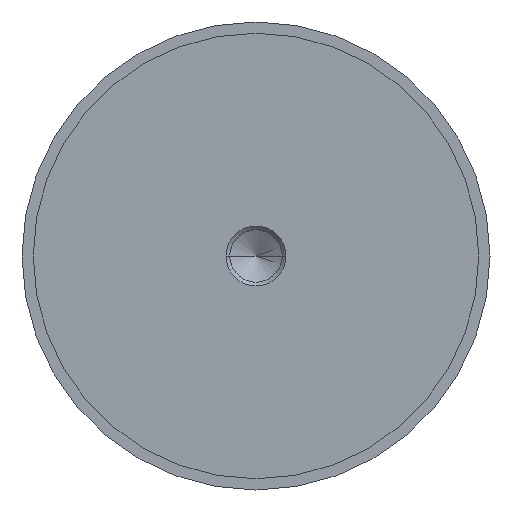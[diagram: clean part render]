
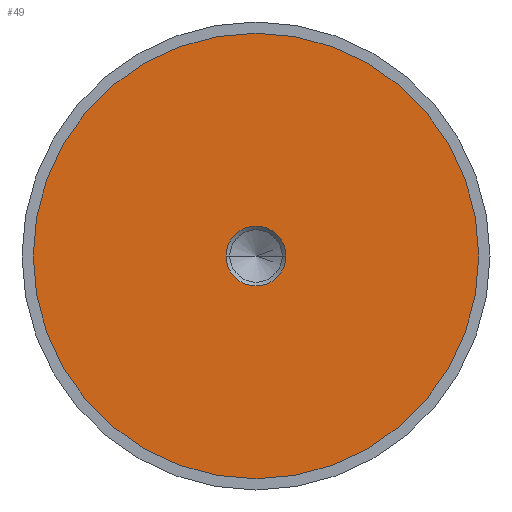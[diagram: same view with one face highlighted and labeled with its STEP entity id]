
A CAD part, left-side view. The second image highlights one B-rep face of the part: STEP entity #49.
In plain terms, the highlighted planar face has unit normal (-1, 0, 0).
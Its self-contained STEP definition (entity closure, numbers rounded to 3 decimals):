
#9 = CIRCLE ( 'NONE', #157, 7.99 ) ;
#20 = AXIS2_PLACEMENT_3D ( 'NONE', #425, #543, #647 ) ;
#35 = DIRECTION ( 'NONE',  ( -1., 0., 0. ) ) ;
#49 = ADVANCED_FACE ( 'NONE', ( #429, #84 ), #544, .F. ) ;
#57 = EDGE_LOOP ( 'NONE', ( #677, #106 ) ) ;
#72 = CARTESIAN_POINT ( 'NONE',  ( -27.49, -7.99, 0. ) ) ;
#84 = FACE_OUTER_BOUND ( 'NONE', #553, .T. ) ;
#85 = CARTESIAN_POINT ( 'NONE',  ( -27.49, 0., 0. ) ) ;
#106 = ORIENTED_EDGE ( 'NONE', *, *, #626, .T. ) ;
#141 = DIRECTION ( 'NONE',  ( 0., 0., 1. ) ) ;
#151 = CARTESIAN_POINT ( 'NONE',  ( -27.49, 0., 59.5 ) ) ;
#157 = AXIS2_PLACEMENT_3D ( 'NONE', #85, #319, #547 ) ;
#166 = CIRCLE ( 'NONE', #433, 59.5 ) ;
#187 = VERTEX_POINT ( 'NONE', #151 ) ;
#197 = DIRECTION ( 'NONE',  ( -1., 0., 0. ) ) ;
#246 = AXIS2_PLACEMENT_3D ( 'NONE', #303, #250, #366 ) ;
#250 = DIRECTION ( 'NONE',  ( 1., 0., 0. ) ) ;
#303 = CARTESIAN_POINT ( 'NONE',  ( -27.49, 59.5, 0. ) ) ;
#313 = CIRCLE ( 'NONE', #20, 7.99 ) ;
#319 = DIRECTION ( 'NONE',  ( 1., 0., 0. ) ) ;
#366 = DIRECTION ( 'NONE',  ( 0., 0., -1. ) ) ;
#374 = CARTESIAN_POINT ( 'NONE',  ( -27.49, 0., 0. ) ) ;
#399 = VERTEX_POINT ( 'NONE', #559 ) ;
#425 = CARTESIAN_POINT ( 'NONE',  ( -27.49, 0., 0. ) ) ;
#429 = FACE_BOUND ( 'NONE', #57, .T. ) ;
#433 = AXIS2_PLACEMENT_3D ( 'NONE', #436, #35, #588 ) ;
#436 = CARTESIAN_POINT ( 'NONE',  ( -27.49, 0., 0. ) ) ;
#469 = VERTEX_POINT ( 'NONE', #72 ) ;
#543 = DIRECTION ( 'NONE',  ( 1., 0., 0. ) ) ;
#544 = PLANE ( 'NONE',  #246 ) ;
#547 = DIRECTION ( 'NONE',  ( 0., 0., -1. ) ) ;
#553 = EDGE_LOOP ( 'NONE', ( #624, #578 ) ) ;
#559 = CARTESIAN_POINT ( 'NONE',  ( -27.49, 0., -59.5 ) ) ;
#562 = CIRCLE ( 'NONE', #646, 59.5 ) ;
#568 = EDGE_CURVE ( 'NONE', #469, #584, #313, .T. ) ;
#578 = ORIENTED_EDGE ( 'NONE', *, *, #633, .T. ) ;
#584 = VERTEX_POINT ( 'NONE', #653 ) ;
#588 = DIRECTION ( 'NONE',  ( 0., 0., 1. ) ) ;
#601 = EDGE_CURVE ( 'NONE', #187, #399, #166, .T. ) ;
#624 = ORIENTED_EDGE ( 'NONE', *, *, #601, .T. ) ;
#626 = EDGE_CURVE ( 'NONE', #584, #469, #9, .T. ) ;
#633 = EDGE_CURVE ( 'NONE', #399, #187, #562, .T. ) ;
#646 = AXIS2_PLACEMENT_3D ( 'NONE', #374, #197, #141 ) ;
#647 = DIRECTION ( 'NONE',  ( 0., 0., -1. ) ) ;
#653 = CARTESIAN_POINT ( 'NONE',  ( -27.49, 7.99, 0. ) ) ;
#677 = ORIENTED_EDGE ( 'NONE', *, *, #568, .T. ) ;
